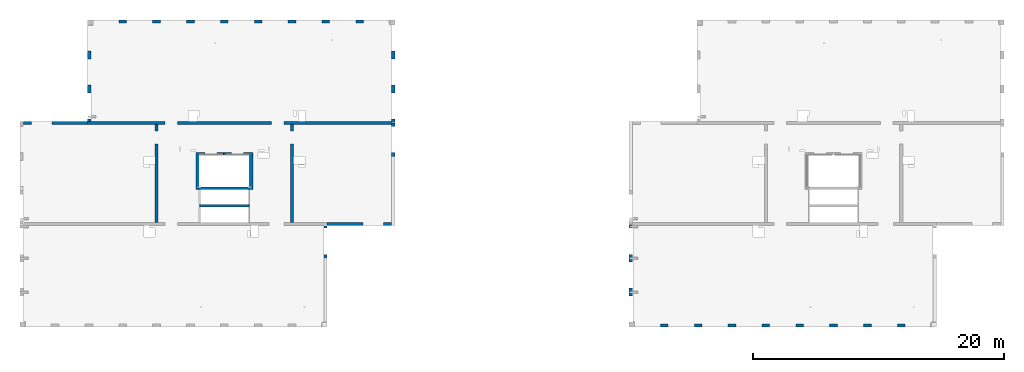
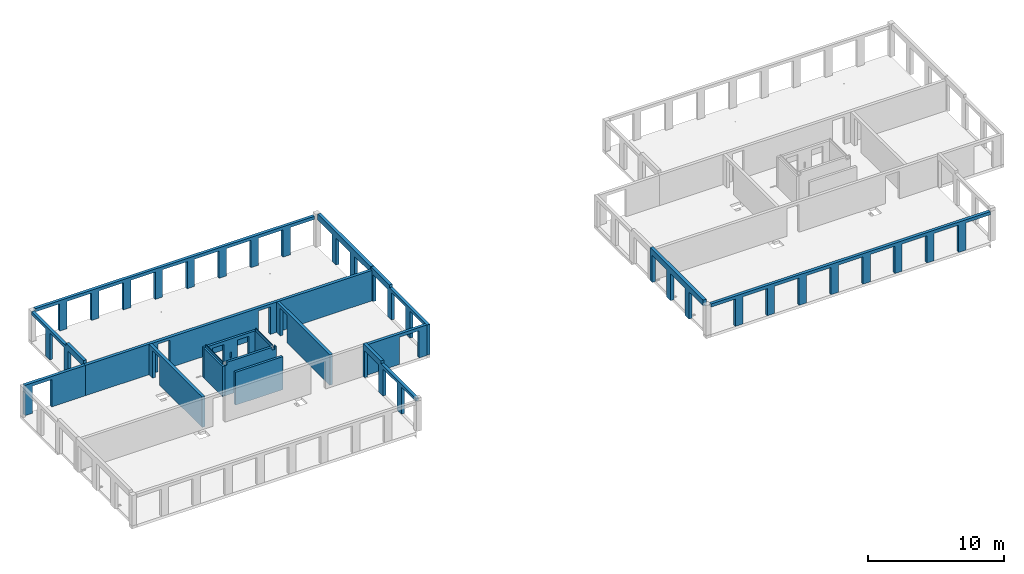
# One storey, part 3 of 8: 19 walls, 47 openings.
"""IFC2X3 building model written with IfcOpenShell, lengths in millimetres."""

from ifc_helpers import new_model, entity, si_unit, converted_unit, derived_unit, direction, frame, frame_2d, origin, origin_2d_with_axis, place, context, subcontext, project, spatial, rectangle, extrude, material, layer, layer_set, layer_usage, type_object, element, save


model = new_model("IFC2X3")

# Units and contexts
model_context = context("Model", 3, precision=0.01, world=origin(), true_north=direction((6.12303176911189e-17, 1.0)))
body_context = subcontext(model_context, "Body", "Model", "MODEL_VIEW")
ifc_project = project(units=[si_unit("LENGTHUNIT", "METRE", prefix="MILLI"), si_unit("AREAUNIT", "SQUARE_METRE"), si_unit("VOLUMEUNIT", "CUBIC_METRE"), converted_unit("PLANEANGLEUNIT", "DEGREE", entity("IfcRatioMeasure", 0.0174532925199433), si_unit("PLANEANGLEUNIT", "RADIAN"), dimensions=[0, 0, 0, 0, 0, 0, 0]), si_unit("MASSUNIT", "GRAM", prefix="KILO"), derived_unit("MASSDENSITYUNIT", [(si_unit("MASSUNIT", "GRAM", prefix="KILO"), 1), (si_unit("LENGTHUNIT", "METRE"), -3)]), si_unit("TIMEUNIT", "SECOND"), si_unit("FREQUENCYUNIT", "HERTZ"), si_unit("THERMODYNAMICTEMPERATUREUNIT", "DEGREE_CELSIUS"), derived_unit("THERMALTRANSMITTANCEUNIT", [(si_unit("MASSUNIT", "GRAM", prefix="KILO"), 1), (si_unit("THERMODYNAMICTEMPERATUREUNIT", "KELVIN"), -1), (si_unit("TIMEUNIT", "SECOND"), -3)]), derived_unit("VOLUMETRICFLOWRATEUNIT", [(si_unit("LENGTHUNIT", "METRE"), 3), (si_unit("TIMEUNIT", "SECOND"), -1)]), si_unit("ELECTRICCURRENTUNIT", "AMPERE"), si_unit("ELECTRICVOLTAGEUNIT", "VOLT"), si_unit("POWERUNIT", "WATT"), si_unit("FORCEUNIT", "NEWTON", prefix="KILO"), si_unit("ILLUMINANCEUNIT", "LUX"), si_unit("LUMINOUSFLUXUNIT", "LUMEN"), si_unit("LUMINOUSINTENSITYUNIT", "CANDELA"), derived_unit("USERDEFINED", [(si_unit("MASSUNIT", "GRAM", prefix="KILO"), -1), (si_unit("LENGTHUNIT", "METRE"), -2), (si_unit("TIMEUNIT", "SECOND"), 3), (si_unit("LUMINOUSFLUXUNIT", "LUMEN"), 1)]), derived_unit("LINEARVELOCITYUNIT", [(si_unit("LENGTHUNIT", "METRE"), 1), (si_unit("TIMEUNIT", "SECOND"), -1)]), si_unit("PRESSUREUNIT", "PASCAL"), derived_unit("USERDEFINED", [(si_unit("LENGTHUNIT", "METRE"), -2), (si_unit("MASSUNIT", "GRAM", prefix="KILO"), 1), (si_unit("TIMEUNIT", "SECOND"), -2)])], contexts=[model_context])

# Site, building, storey
site_placement = place(None, origin())
site = spatial("IfcSite", under=ifc_project, at=site_placement, Name="Default", CompositionType="ELEMENT")
building_placement = place(site_placement, origin())
building = spatial("IfcBuilding", under=site, at=building_placement, Name="niet gebruiken", CompositionType="ELEMENT")
storey_placement = place(building_placement, frame((0.0, 0.0, 36360.0)))
storey = spatial("IfcBuildingStorey", under=building, at=storey_placement, Name="12 twaalfde verdieping", CompositionType="ELEMENT", Elevation=36360.0)

# Wall, opening
ifc_material_1 = material(Name="NLRS_f2_beton ihwg")
ifc_layer_1 = layer(ifc_material_1, 250.0)
ifc_layer_set_1 = layer_set([ifc_layer_1], Name="Basic Wall:NLRS_22.21_WA_beton ihwg d=250_gen")
ifc_layer_usage_1 = layer_usage(ifc_layer_set_1, "AXIS2", "NEGATIVE", 125.0)
wall_type_1 = type_object("IfcWallType", Name="Basic Wall:NLRS_22.21_WA_beton ihwg d=250_gen", PredefinedType="STANDARD", material=ifc_layer_set_1)
wall_1_placement = place(storey_placement, frame((27170.0, 45031.0, -90.0)))
wall_1 = element("IfcWallStandardCase", 1, at=wall_1_placement, inside=storey, type_object=wall_type_1, material=ifc_layer_usage_1, Name="Basic Wall:NLRS_22.21_WA_beton ihwg d=250_gen", ObjectType="Basic Wall:NLRS_22.21_WA_beton ihwg d=250_gen", context=body_context, shape_type="SweptSolid", body=[
    extrude(rectangle(XDim=5130.0, YDim=249.999999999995, at=frame_2d((2565.0, 0.0), x_axis=(-1.0, 0.0))), origin(), (0.0, 0.0, 1.0), 2719.99999999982),
])
opening_1_placement = place(wall_1_placement, origin())
element("IfcOpeningElement", 2, at=opening_1_placement, cuts=wall_1, Name="Basic Wall:NLRS_22.21_WA_beton ihwg d=250_gen", ObjectType="Opening", context=body_context, shape_type="SweptSolid", body=[
    extrude(rectangle(XDim=2440.0, YDim=1640.0, at=origin_2d_with_axis()), frame((1460.0, -1649.0, 1220.0), z_axis=(0.0, 1.0, 0.0), x_axis=(0.0, 0.0, 1.0)), (0.0, 0.0, 1.0), 3048.0),
])

ifc_layer_usage_2 = layer_usage(ifc_layer_set_1, "AXIS2", "NEGATIVE", 125.0)
wall_2_placement = place(storey_placement, frame((37800.0, 44906.0, -90.0), z_axis=(0.0, 0.0, 1.0), x_axis=(0.0, -1.0, 0.0)))
wall_2 = element("IfcWallStandardCase", 3, at=wall_2_placement, inside=storey, type_object=wall_type_1, material=ifc_layer_usage_2, Name="Basic Wall:NLRS_22.21_WA_beton ihwg d=250_gen", ObjectType="Basic Wall:NLRS_22.21_WA_beton ihwg d=250_gen", context=body_context, shape_type="SweptSolid", body=[
    extrude(rectangle(XDim=7799.99999999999, YDim=250.000000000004, at=frame_2d((3900.0, 0.0), x_axis=(-1.0, 0.0))), origin(), (0.0, 0.0, 1.0), 2719.99999999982),
])
opening_2_placement = place(wall_2_placement, origin())
element("IfcOpeningElement", 4, at=opening_2_placement, cuts=wall_2, Name="Basic Wall:NLRS_22.21_WA_beton ihwg d=250_gen", ObjectType="Opening", context=body_context, shape_type="SweptSolid", body=[
    extrude(rectangle(XDim=2470.0, YDim=1006.0, at=frame_2d((-4.43378667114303e-12, 0.0), x_axis=(1.0, 0.0))), frame((1027.0, -1649.0, 1235.0), z_axis=(0.0, 1.0, 0.0), x_axis=(0.0, 0.0, 1.0)), (0.0, 0.0, 1.0), 3048.0),
])

ifc_layer_usage_3 = layer_usage(ifc_layer_set_1, "AXIS2", "NEGATIVE", 125.0)
wall_3_placement = place(storey_placement, frame((48600.0, 44906.0, -90.0), z_axis=(0.0, 0.0, 1.0), x_axis=(0.0, -1.0, 0.0)))
wall_3 = element("IfcWallStandardCase", 5, at=wall_3_placement, inside=storey, type_object=wall_type_1, material=ifc_layer_usage_3, Name="Basic Wall:NLRS_22.21_WA_beton ihwg d=250_gen", ObjectType="Basic Wall:NLRS_22.21_WA_beton ihwg d=250_gen", context=body_context, shape_type="SweptSolid", body=[
    extrude(rectangle(XDim=7799.99999999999, YDim=249.999999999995, at=frame_2d((3900.0, 0.0), x_axis=(-1.0, 0.0))), origin(), (0.0, 0.0, 1.0), 2719.99999999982),
])
opening_3_placement = place(wall_3_placement, origin())
element("IfcOpeningElement", 6, at=opening_3_placement, cuts=wall_3, Name="Basic Wall:NLRS_22.21_WA_beton ihwg d=250_gen", ObjectType="Opening", context=body_context, shape_type="SweptSolid", body=[
    extrude(rectangle(XDim=2470.0, YDim=1006.0, at=frame_2d((-4.43378667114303e-12, 0.0), x_axis=(1.0, 0.0))), frame((1027.0, -1649.0, 1235.0), z_axis=(0.0, 1.0, 0.0), x_axis=(0.0, 0.0, 1.0)), (0.0, 0.0, 1.0), 3048.0),
])

# Wall, openings
ifc_layer_usage_4 = layer_usage(ifc_layer_set_1, "AXIS2", "NEGATIVE", 125.0)
wall_4_placement = place(storey_placement, frame((32300.0, 45031.0, -90.0)))
wall_4 = element("IfcWallStandardCase", 7, at=wall_4_placement, inside=storey, type_object=wall_type_1, material=ifc_layer_usage_4, Name="Basic Wall:NLRS_22.21_WA_beton ihwg d=250_gen", ObjectType="Basic Wall:NLRS_22.21_WA_beton ihwg d=250_gen", context=body_context, shape_type="SweptSolid", body=[
    extrude(rectangle(XDim=24250.0, YDim=249.999999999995, at=frame_2d((12125.0, 0.0), x_axis=(-1.0, 0.0))), origin(), (0.0, 0.0, 1.0), 2719.99999999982),
])
opening_4_placement = place(wall_4_placement, origin())
element("IfcOpeningElement", 8, at=opening_4_placement, cuts=wall_4, Name="Basic Wall:NLRS_22.21_WA_beton ihwg d=250_gen", ObjectType="Opening", context=body_context, shape_type="SweptSolid", body=[
    extrude(rectangle(XDim=2470.0, YDim=1006.0, at=frame_2d((-4.43378667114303e-12, 0.0), x_axis=(1.0, 0.0))), frame((15148.0, -1649.0, 1235.0), z_axis=(0.0, 1.0, 0.0), x_axis=(0.0, 0.0, 1.0)), (0.0, 0.0, 1.0), 3048.0),
])
opening_5_placement = place(wall_4_placement, origin())
element("IfcOpeningElement", 9, at=opening_5_placement, cuts=wall_4, Name="Basic Wall:NLRS_22.21_WA_beton ihwg d=250_gen", ObjectType="Opening", context=body_context, shape_type="SweptSolid", body=[
    extrude(rectangle(XDim=2470.0, YDim=1006.0, at=frame_2d((0.0, 2.1600499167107e-12), x_axis=(1.0, 0.0))), frame((6652.0, -1649.0, 1235.0), z_axis=(0.0, 1.0, 0.0), x_axis=(0.0, 0.0, 1.0)), (0.0, 0.0, 1.0), 3048.0),
])

# Wall, opening
ifc_layer_usage_5 = layer_usage(ifc_layer_set_1, "AXIS2", "NEGATIVE", 125.0)
wall_5_placement = place(storey_placement, frame((51400.0, 36981.0, -90.0)))
wall_5 = element("IfcWallStandardCase", 10, at=wall_5_placement, inside=storey, type_object=wall_type_1, material=ifc_layer_usage_5, Name="Basic Wall:NLRS_22.21_WA_beton ihwg d=250_gen", ObjectType="Basic Wall:NLRS_22.21_WA_beton ihwg d=250_gen", context=body_context, shape_type="SweptSolid", body=[
    extrude(rectangle(XDim=5150.0, YDim=250.000000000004, at=frame_2d((2575.0, 0.0), x_axis=(-1.0, 0.0))), origin(), (0.0, 0.0, 1.0), 2719.99999999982),
])
opening_6_placement = place(wall_5_placement, origin())
element("IfcOpeningElement", 11, at=opening_6_placement, cuts=wall_5, Name="Basic Wall:NLRS_22.21_WA_beton ihwg d=250_gen", ObjectType="Opening", context=body_context, shape_type="SweptSolid", body=[
    extrude(rectangle(XDim=2440.0, YDim=1640.0, at=frame_2d((-4.37694325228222e-12, 0.0), x_axis=(0.0, 1.0))), frame((3670.0, -1399.0, 1220.0), z_axis=(0.0, 1.0, 0.0), x_axis=(-1.0, 0.0, 0.0)), (0.0, 0.0, 1.0), 3048.0),
])

# Wall, openings
ifc_material_2 = material(Name="NLRS_f2_beton prefab")
ifc_layer_2 = layer(ifc_material_2, 250.0)
ifc_layer_set_2 = layer_set([ifc_layer_2], Name="Basic Wall:NLRS_21.21_WA_beton prefab d=250_gen")
ifc_layer_usage_6 = layer_usage(ifc_layer_set_2, "AXIS2", "NEGATIVE", 125.0)
wall_type_2 = type_object("IfcWallType", Name="Basic Wall:NLRS_21.21_WA_beton prefab d=250_gen", PredefinedType="STANDARD", material=ifc_layer_set_2)
wall_6_placement = place(storey_placement, frame((32425.0, 52846.0, -70.0), z_axis=(0.0, 0.0, 1.0), x_axis=(0.0, -1.0, 0.0)))
wall_6 = element("IfcWallStandardCase", 12, at=wall_6_placement, inside=storey, type_object=wall_type_2, material=ifc_layer_usage_6, Name="Basic Wall:NLRS_21.21_WA_beton prefab d=250_gen", ObjectType="Basic Wall:NLRS_21.21_WA_beton prefab d=250_gen", context=body_context, shape_type="SweptSolid", body=[
    extrude(rectangle(XDim=7670.00000000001, YDim=250.000000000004, at=frame_2d((3835.0, 0.0), x_axis=(-1.0, 0.0))), origin(), (0.0, 0.0, 1.0), 2949.99999999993),
])
opening_7_placement = place(wall_6_placement, origin())
element("IfcOpeningElement", 13, at=opening_7_placement, cuts=wall_6, Name="Basic Wall:NLRS_21.21_WA_beton prefab d=250_gen", ObjectType="Opening", context=body_context, shape_type="SweptSolid", body=[
    extrude(rectangle(XDim=2420.0, YDim=2080.0, at=frame_2d((0.0, -2.1600499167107e-12), x_axis=(0.0, 1.0))), frame((1040.0, -1399.0, 1210.0), z_axis=(0.0, 1.0, 0.0), x_axis=(-1.0, 0.0, 0.0)), (0.0, 0.0, 1.0), 3048.0),
])
opening_8_placement = place(wall_6_placement, origin())
element("IfcOpeningElement", 14, at=opening_8_placement, cuts=wall_6, Name="Basic Wall:NLRS_21.21_WA_beton prefab d=250_gen", ObjectType="Opening", context=body_context, shape_type="SweptSolid", body=[
    extrude(rectangle(XDim=2420.0, YDim=2080.0, at=frame_2d((0.0, 2.1600499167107e-12), x_axis=(0.0, 1.0))), frame((3740.0, -1399.0, 1210.0), z_axis=(0.0, 1.0, 0.0), x_axis=(-1.0, 0.0, 0.0)), (0.0, 0.0, 1.0), 3048.0),
])
opening_9_placement = place(wall_6_placement, origin())
element("IfcOpeningElement", 15, at=opening_9_placement, cuts=wall_6, Name="Basic Wall:NLRS_21.21_WA_beton prefab d=250_gen", ObjectType="Opening", context=body_context, shape_type="SweptSolid", body=[
    extrude(rectangle(XDim=2420.0, YDim=2080.0, at=frame_2d((0.0, 2.1600499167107e-12), x_axis=(0.0, 1.0))), frame((6440.0, -1399.0, 1210.0), z_axis=(0.0, 1.0, 0.0), x_axis=(-1.0, 0.0, 0.0)), (0.0, 0.0, 1.0), 3048.0),
])
opening_10_placement = place(wall_6_placement, origin())
element("IfcOpeningElement", 16, at=opening_10_placement, cuts=wall_6, Name="Basic Wall:NLRS_21.21_WA_beton prefab d=250_gen", ObjectType="Opening", context=body_context, shape_type="SweptSolid", body=[
    extrude(rectangle(XDim=250.000000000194, YDim=5089.99999999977, at=frame_2d((4.32009983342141e-12, -4.32720526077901e-12), x_axis=(0.0, 1.0))), frame((2545.0, 125.0, 2825.0), z_axis=(0.0, -1.0, 0.0), x_axis=(-1.0, 0.0, 0.0)), (0.0, 0.0, 1.0), 250.0),
])

ifc_layer_usage_7 = layer_usage(ifc_layer_set_2, "AXIS2", "NEGATIVE", 125.0)
wall_7_placement = place(storey_placement, frame((56675.0, 45046.0, -70.0), z_axis=(0.0, 0.0, 1.0), x_axis=(0.0, -1.0, 0.0)))
wall_7 = element("IfcWallStandardCase", 17, at=wall_7_placement, inside=storey, type_object=wall_type_2, material=ifc_layer_usage_7, Name="Basic Wall:NLRS_21.21_WA_beton prefab d=250_gen", ObjectType="Basic Wall:NLRS_21.21_WA_beton prefab d=250_gen", context=body_context, shape_type="SweptSolid", body=[
    extrude(rectangle(XDim=8189.99999999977, YDim=249.999999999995, at=frame_2d((4094.99999999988, 0.0), x_axis=(-1.0, 0.0))), origin(), (0.0, 0.0, 1.0), 2949.99999999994),
])
opening_11_placement = place(wall_7_placement, origin())
element("IfcOpeningElement", 18, at=opening_11_placement, cuts=wall_7, Name="Basic Wall:NLRS_21.21_WA_beton prefab d=250_gen", ObjectType="Opening", context=body_context, shape_type="SweptSolid", body=[
    extrude(rectangle(XDim=2420.0, YDim=2080.0, at=frame_2d((0.0, -2.1600499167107e-12), x_axis=(0.0, 1.0))), frame((1340.0, -1399.0, 1210.0), z_axis=(0.0, 1.0, 0.0), x_axis=(-1.0, 0.0, 0.0)), (0.0, 0.0, 1.0), 3048.0),
])
opening_12_placement = place(wall_7_placement, origin())
element("IfcOpeningElement", 19, at=opening_12_placement, cuts=wall_7, Name="Basic Wall:NLRS_21.21_WA_beton prefab d=250_gen", ObjectType="Opening", context=body_context, shape_type="SweptSolid", body=[
    extrude(rectangle(XDim=2420.0, YDim=2080.0, at=frame_2d((0.0, -2.1600499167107e-12), x_axis=(0.0, 1.0))), frame((4040.0, -1399.0, 1210.0), z_axis=(0.0, 1.0, 0.0), x_axis=(-1.0, 0.0, 0.0)), (0.0, 0.0, 1.0), 3048.0),
])
opening_13_placement = place(wall_7_placement, origin())
element("IfcOpeningElement", 20, at=opening_13_placement, cuts=wall_7, Name="Basic Wall:NLRS_21.21_WA_beton prefab d=250_gen", ObjectType="Opening", context=body_context, shape_type="SweptSolid", body=[
    extrude(rectangle(XDim=2420.0, YDim=2080.0, at=frame_2d((0.0, -2.1600499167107e-12), x_axis=(0.0, 1.0))), frame((6740.0, -1399.0, 1210.0), z_axis=(0.0, 1.0, 0.0), x_axis=(-1.0, 0.0, 0.0)), (0.0, 0.0, 1.0), 3048.0),
])
opening_14_placement = place(wall_7_placement, origin())
element("IfcOpeningElement", 21, at=opening_14_placement, cuts=wall_7, Name="Basic Wall:NLRS_21.21_WA_beton prefab d=250_gen", ObjectType="Opening", context=body_context, shape_type="SweptSolid", body=[
    extrude(rectangle(XDim=249.999999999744, YDim=5500.0000000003, at=frame_2d((-4.33431068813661e-12, -4.32009983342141e-12), x_axis=(1.0, 0.0))), frame((5440.0, 125.0, 2825.0), z_axis=(0.0, -1.0, 0.0), x_axis=(0.0, 0.0, 1.0)), (0.0, 0.0, 1.0), 250.0),
])

ifc_layer_usage_8 = layer_usage(ifc_layer_set_2, "AXIS2", "NEGATIVE", 125.0)
wall_8_placement = place(storey_placement, frame((51275.0, 29166.0, -70.0), z_axis=(0.0, 0.0, 1.0), x_axis=(0.0, 1.0, 0.0)))
wall_8 = element("IfcWallStandardCase", 22, at=wall_8_placement, inside=storey, type_object=wall_type_2, material=ifc_layer_usage_8, Name="Basic Wall:NLRS_21.21_WA_beton prefab d=250_gen", ObjectType="Basic Wall:NLRS_21.21_WA_beton prefab d=250_gen", context=body_context, shape_type="SweptSolid", body=[
    extrude(rectangle(XDim=7669.99999999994, YDim=249.999999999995, at=frame_2d((3834.99999999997, 0.0), x_axis=(-1.0, 0.0))), origin(), (0.0, 0.0, 1.0), 2949.99999999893),
])
opening_15_placement = place(wall_8_placement, origin())
element("IfcOpeningElement", 23, at=opening_15_placement, cuts=wall_8, Name="Basic Wall:NLRS_21.21_WA_beton prefab d=250_gen", ObjectType="Opening", context=body_context, shape_type="SweptSolid", body=[
    extrude(rectangle(XDim=2420.0, YDim=2080.0, at=frame_2d((-2.1600499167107e-12, -2.1600499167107e-12), x_axis=(0.0, 1.0))), frame((1040.0, -1399.0, 1210.0), z_axis=(0.0, 1.0, 0.0), x_axis=(-1.0, 0.0, 0.0)), (0.0, 0.0, 1.0), 3048.0),
])
opening_16_placement = place(wall_8_placement, origin())
element("IfcOpeningElement", 24, at=opening_16_placement, cuts=wall_8, Name="Basic Wall:NLRS_21.21_WA_beton prefab d=250_gen", ObjectType="Opening", context=body_context, shape_type="SweptSolid", body=[
    extrude(rectangle(XDim=2420.0, YDim=2080.0, at=frame_2d((2.1600499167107e-12, -2.1600499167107e-12), x_axis=(0.0, 1.0))), frame((6440.0, -1399.0, 1210.0), z_axis=(0.0, 1.0, 0.0), x_axis=(-1.0, 0.0, 0.0)), (0.0, 0.0, 1.0), 3048.0),
])
opening_17_placement = place(wall_8_placement, origin())
element("IfcOpeningElement", 25, at=opening_17_placement, cuts=wall_8, Name="Basic Wall:NLRS_21.21_WA_beton prefab d=250_gen", ObjectType="Opening", context=body_context, shape_type="SweptSolid", body=[
    extrude(rectangle(XDim=2420.0, YDim=2080.0, at=frame_2d((2.1600499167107e-12, -2.1600499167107e-12), x_axis=(0.0, 1.0))), frame((3740.0, -1399.0, 1210.0), z_axis=(0.0, 1.0, 0.0), x_axis=(-1.0, 0.0, 0.0)), (0.0, 0.0, 1.0), 3048.0),
])
opening_18_placement = place(wall_8_placement, origin())
element("IfcOpeningElement", 26, at=opening_18_placement, cuts=wall_8, Name="Basic Wall:NLRS_21.21_WA_beton prefab d=250_gen", ObjectType="Opening", context=body_context, shape_type="SweptSolid", body=[
    extrude(rectangle(XDim=249.999999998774, YDim=5090.00000000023, at=frame_2d((0.0, -4.32720526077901e-12), x_axis=(0.0, 1.0))), frame((2545.0, 125.0, 2825.0), z_axis=(0.0, -1.0, 0.0), x_axis=(-1.0, 0.0, 0.0)), (0.0, 0.0, 1.0), 250.0),
])

# Wall
ifc_layer_3 = layer(ifc_material_2, 200.0)
ifc_layer_set_3 = layer_set([ifc_layer_3], Name="Basic Wall:NLRS_21.21_WA_beton prefab d=200_gen")
ifc_layer_usage_9 = layer_usage(ifc_layer_set_3, "AXIS2", "NEGATIVE", 100.0)
wall_type_3 = type_object("IfcWallType", Name="Basic Wall:NLRS_21.21_WA_beton prefab d=200_gen", PredefinedType="STANDARD", material=ifc_layer_set_3)
wall_9_placement = place(storey_placement, frame((41200.0, 38426.0, -70.0)))
element("IfcWallStandardCase", 27, at=wall_9_placement, inside=storey, type_object=wall_type_3, material=ifc_layer_usage_9, Name="Basic Wall:NLRS_21.21_WA_beton prefab d=200_gen", ObjectType="Basic Wall:NLRS_21.21_WA_beton prefab d=200_gen", context=body_context, shape_type="SweptSolid", body=[
    extrude(rectangle(XDim=3999.99999999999, YDim=199.999999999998, at=frame_2d((2000.0, 0.0), x_axis=(-1.0, 0.0))), origin(), (0.0, 0.0, 1.0), 2950.00000000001),
])

# Wall, openings
ifc_layer_4 = layer(ifc_material_2, 200.0)
ifc_layer_set_4 = layer_set([ifc_layer_4], Name="Basic Wall:NLRS_22.21_WA_beton prefab d=200_gen")
ifc_layer_usage_10 = layer_usage(ifc_layer_set_4, "AXIS2", "NEGATIVE", 100.0)
wall_type_4 = type_object("IfcWallType", Name="Basic Wall:NLRS_22.21_WA_beton prefab d=200_gen", PredefinedType="STANDARD", material=ifc_layer_set_4)
wall_10_placement = place(storey_placement, frame((40925.0, 42596.0, -70.0)))
wall_10 = element("IfcWallStandardCase", 28, at=wall_10_placement, inside=storey, type_object=wall_type_4, material=ifc_layer_usage_10, Name="Basic Wall:NLRS_22.21_WA_beton prefab d=200_gen", ObjectType="Basic Wall:NLRS_22.21_WA_beton prefab d=200_gen", context=body_context, shape_type="SweptSolid", body=[
    extrude(rectangle(XDim=4549.99999999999, YDim=200.000000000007, at=frame_2d((2274.99999999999, 7.8159700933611e-13), x_axis=(-1.0, 0.0))), origin(), (0.0, 0.0, 1.0), 2700.00000000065),
])
opening_19_placement = place(wall_10_placement, origin())
element("IfcOpeningElement", 29, at=opening_19_placement, cuts=wall_10, Name="Basic Wall:NLRS_22.21_WA_beton prefab d=200_gen", ObjectType="Opening", context=body_context, shape_type="SweptSolid", body=[
    extrude(rectangle(XDim=2430.0, YDim=980.000000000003, at=origin_2d_with_axis()), frame((1219.99984910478, -1624.0, 1195.0), z_axis=(0.0, 1.0, 0.0), x_axis=(0.0, 0.0, 1.0)), (0.0, 0.0, 1.0), 3048.0),
])
opening_20_placement = place(wall_10_placement, origin())
element("IfcOpeningElement", 30, at=opening_20_placement, cuts=wall_10, Name="Basic Wall:NLRS_22.21_WA_beton prefab d=200_gen", ObjectType="Opening", context=body_context, shape_type="SweptSolid", body=[
    extrude(rectangle(XDim=2430.0, YDim=980.000000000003, at=origin_2d_with_axis()), frame((3329.99984910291, -1624.0, 1195.0), z_axis=(0.0, 1.0, 0.0), x_axis=(0.0, 0.0, 1.0)), (0.0, 0.0, 1.0), 3048.0),
])
opening_21_placement = place(wall_10_placement, origin())
element("IfcOpeningElement", 31, at=opening_21_placement, cuts=wall_10, Name="Basic Wall:NLRS_22.21_WA_beton prefab d=200_gen", ObjectType="Opening", context=body_context, shape_type="SweptSolid", body=[
    extrude(rectangle(XDim=504.999999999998, YDim=135.000000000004, at=frame_2d((-2.1600499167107e-12, 0.0), x_axis=(1.0, 0.0))), frame((2275.0, -1624.0, 1272.50000000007), z_axis=(0.0, 1.0, 0.0), x_axis=(0.0, 0.0, 1.0)), (0.0, 0.0, 1.0), 3048.0),
])

# Wall
ifc_layer_usage_11 = layer_usage(ifc_layer_set_4, "AXIS2", "NEGATIVE", 100.0)
wall_11_placement = place(storey_placement, frame((41025.0, 42496.0, -70.0), z_axis=(0.0, 0.0, 1.0), x_axis=(0.0, -1.0, 0.0)))
element("IfcWallStandardCase", 32, at=wall_11_placement, inside=storey, type_object=wall_type_4, material=ifc_layer_usage_11, Name="Basic Wall:NLRS_22.21_WA_beton prefab d=200_gen", ObjectType="Basic Wall:NLRS_22.21_WA_beton prefab d=200_gen", context=body_context, shape_type="SweptSolid", body=[
    extrude(rectangle(XDim=2749.99999999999, YDim=200.000000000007, at=frame_2d((1375.0, 0.0), x_axis=(-1.0, 0.0))), origin(), (0.0, 0.0, 1.0), 2699.99999999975),
])

# Wall, openings
ifc_layer_usage_12 = layer_usage(ifc_layer_set_4, "AXIS2", "NEGATIVE", 100.0)
wall_12_placement = place(storey_placement, frame((45475.0, 39846.0, -70.0), z_axis=(0.0, 0.0, 1.0), x_axis=(-1.0, 0.0, 0.0)))
wall_12 = element("IfcWallStandardCase", 33, at=wall_12_placement, inside=storey, type_object=wall_type_4, material=ifc_layer_usage_12, Name="Basic Wall:NLRS_22.21_WA_beton prefab d=200_gen", ObjectType="Basic Wall:NLRS_22.21_WA_beton prefab d=200_gen", context=body_context, shape_type="SweptSolid", body=[
    extrude(rectangle(XDim=4349.99999999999, YDim=200.000000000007, at=frame_2d((2174.99999999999, 0.0), x_axis=(-1.0, 0.0))), origin(), (0.0, 0.0, 1.0), 2949.99999999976),
])
opening_22_placement = place(wall_12_placement, origin())
element("IfcOpeningElement", 34, at=opening_22_placement, cuts=wall_12, Name="Basic Wall:NLRS_22.21_WA_beton prefab d=200_gen", ObjectType="Opening", context=body_context, shape_type="SweptSolid", body=[
    extrude(rectangle(XDim=249.999999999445, YDim=274.9999671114, at=frame_2d((-2.16715534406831e-12, -4.33431068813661e-12), x_axis=(1.0, 0.0))), frame((4312.50001644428, 100.0, 2825.0), z_axis=(0.0, -1.0, 0.0), x_axis=(0.0, 0.0, 1.0)), (0.0, 0.0, 1.0), 200.0),
])
opening_23_placement = place(wall_12_placement, origin())
element("IfcOpeningElement", 35, at=opening_23_placement, cuts=wall_12, Name="Basic Wall:NLRS_22.21_WA_beton prefab d=200_gen", ObjectType="Opening", context=body_context, shape_type="SweptSolid", body=[
    extrude(rectangle(XDim=249.999999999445, YDim=274.999967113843, at=frame_2d((-4.32009983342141e-12, 2.16715534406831e-12), x_axis=(0.0, 1.0))), frame((237.499983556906, 100.0, 2825.0), z_axis=(0.0, -1.0, 0.0), x_axis=(-1.0, 0.0, 0.0)), (0.0, 0.0, 1.0), 200.0),
])

# Wall
ifc_layer_usage_13 = layer_usage(ifc_layer_set_4, "AXIS2", "NEGATIVE", 100.0)
wall_13_placement = place(storey_placement, frame((45375.0, 39946.0, -70.0), z_axis=(0.0, 0.0, 1.0), x_axis=(0.0, 1.0, 0.0)))
element("IfcWallStandardCase", 36, at=wall_13_placement, inside=storey, type_object=wall_type_4, material=ifc_layer_usage_13, Name="Basic Wall:NLRS_22.21_WA_beton prefab d=200_gen", ObjectType="Basic Wall:NLRS_22.21_WA_beton prefab d=200_gen", context=body_context, shape_type="SweptSolid", body=[
    extrude(rectangle(XDim=2549.99999999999, YDim=200.000000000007, at=frame_2d((1275.0, 0.0), x_axis=(-1.0, 0.0))), origin(), (0.0, 0.0, 1.0), 2699.99999999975),
])

# Wall, openings
ifc_layer_5 = layer(ifc_material_1, 250.0)
ifc_layer_set_5 = layer_set([ifc_layer_5], Name="Basic Wall:NLRS_21.21_WA_beton ihwg d=250_gen")
ifc_layer_usage_14 = layer_usage(ifc_layer_set_5, "AXIS2", "NEGATIVE", 125.0)
wall_type_5 = type_object("IfcWallType", Name="Basic Wall:NLRS_21.21_WA_beton ihwg d=250_gen", PredefinedType="STANDARD", material=ifc_layer_set_5)
wall_14_placement = place(storey_placement, frame((75930.0, 28881.0, -90.0)))
wall_14 = element("IfcWallStandardCase", 37, at=wall_14_placement, inside=storey, type_object=wall_type_5, material=ifc_layer_usage_14, Name="Basic Wall:NLRS_21.21_WA_beton ihwg d=250_gen", ObjectType="Basic Wall:NLRS_21.21_WA_beton ihwg d=250_gen", context=body_context, shape_type="SweptSolid", body=[
    extrude(rectangle(XDim=23640.0000000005, YDim=250.000000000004, at=frame_2d((11820.0000000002, -8.66862137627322e-13), x_axis=(-1.0, 0.0))), origin(), (0.0, 0.0, 1.0), 2720.00000000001),
])
opening_24_placement = place(wall_14_placement, origin())
element("IfcOpeningElement", 38, at=opening_24_placement, cuts=wall_14, Name="Basic Wall:NLRS_21.21_WA_beton ihwg d=250_gen", ObjectType="Opening", context=body_context, shape_type="SweptSolid", body=[
    extrude(rectangle(XDim=2440.0, YDim=2080.0, at=frame_2d((8.64019966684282e-12, -2.1600499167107e-12), x_axis=(0.0, 1.0))), frame((22620.0, -1399.0, 1220.0), z_axis=(0.0, 1.0, 0.0), x_axis=(-1.0, 0.0, 0.0)), (0.0, 0.0, 1.0), 3048.0),
])
opening_25_placement = place(wall_14_placement, origin())
element("IfcOpeningElement", 39, at=opening_25_placement, cuts=wall_14, Name="Basic Wall:NLRS_21.21_WA_beton ihwg d=250_gen", ObjectType="Opening", context=body_context, shape_type="SweptSolid", body=[
    extrude(rectangle(XDim=2440.0, YDim=2080.0, at=frame_2d((8.64019966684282e-12, 0.0), x_axis=(0.0, 1.0))), frame((19920.0, -1399.0, 1220.0), z_axis=(0.0, 1.0, 0.0), x_axis=(-1.0, 0.0, 0.0)), (0.0, 0.0, 1.0), 3048.0),
])
opening_26_placement = place(wall_14_placement, origin())
element("IfcOpeningElement", 40, at=opening_26_placement, cuts=wall_14, Name="Basic Wall:NLRS_21.21_WA_beton ihwg d=250_gen", ObjectType="Opening", context=body_context, shape_type="SweptSolid", body=[
    extrude(rectangle(XDim=2440.0, YDim=2080.0, at=frame_2d((8.64019966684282e-12, 2.1600499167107e-12), x_axis=(0.0, 1.0))), frame((17220.0, -1399.0, 1220.0), z_axis=(0.0, 1.0, 0.0), x_axis=(-1.0, 0.0, 0.0)), (0.0, 0.0, 1.0), 3048.0),
])
opening_27_placement = place(wall_14_placement, origin())
element("IfcOpeningElement", 41, at=opening_27_placement, cuts=wall_14, Name="Basic Wall:NLRS_21.21_WA_beton ihwg d=250_gen", ObjectType="Opening", context=body_context, shape_type="SweptSolid", body=[
    extrude(rectangle(XDim=2440.0, YDim=2080.0, at=frame_2d((-8.64019966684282e-12, 0.0), x_axis=(0.0, 1.0))), frame((14520.0, -1399.0, 1220.0), z_axis=(0.0, 1.0, 0.0), x_axis=(-1.0, 0.0, 0.0)), (0.0, 0.0, 1.0), 3048.0),
])
opening_28_placement = place(wall_14_placement, origin())
element("IfcOpeningElement", 42, at=opening_28_placement, cuts=wall_14, Name="Basic Wall:NLRS_21.21_WA_beton ihwg d=250_gen", ObjectType="Opening", context=body_context, shape_type="SweptSolid", body=[
    extrude(rectangle(XDim=2440.0, YDim=2080.0, at=frame_2d((8.64019966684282e-12, -2.1600499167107e-12), x_axis=(0.0, 1.0))), frame((11820.0, -1399.0, 1220.0), z_axis=(0.0, 1.0, 0.0), x_axis=(-1.0, 0.0, 0.0)), (0.0, 0.0, 1.0), 3048.0),
])
opening_29_placement = place(wall_14_placement, origin())
element("IfcOpeningElement", 43, at=opening_29_placement, cuts=wall_14, Name="Basic Wall:NLRS_21.21_WA_beton ihwg d=250_gen", ObjectType="Opening", context=body_context, shape_type="SweptSolid", body=[
    extrude(rectangle(XDim=2440.0, YDim=2080.0, at=frame_2d((8.64019966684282e-12, 0.0), x_axis=(0.0, 1.0))), frame((9120.0, -1399.0, 1220.0), z_axis=(0.0, 1.0, 0.0), x_axis=(-1.0, 0.0, 0.0)), (0.0, 0.0, 1.0), 3048.0),
])
opening_30_placement = place(wall_14_placement, origin())
element("IfcOpeningElement", 44, at=opening_30_placement, cuts=wall_14, Name="Basic Wall:NLRS_21.21_WA_beton ihwg d=250_gen", ObjectType="Opening", context=body_context, shape_type="SweptSolid", body=[
    extrude(rectangle(XDim=2440.0, YDim=2080.0, at=frame_2d((-8.64019966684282e-12, -2.1600499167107e-12), x_axis=(0.0, 1.0))), frame((6420.0, -1399.0, 1220.0), z_axis=(0.0, 1.0, 0.0), x_axis=(-1.0, 0.0, 0.0)), (0.0, 0.0, 1.0), 3048.0),
])
opening_31_placement = place(wall_14_placement, origin())
element("IfcOpeningElement", 45, at=opening_31_placement, cuts=wall_14, Name="Basic Wall:NLRS_21.21_WA_beton ihwg d=250_gen", ObjectType="Opening", context=body_context, shape_type="SweptSolid", body=[
    extrude(rectangle(XDim=2440.0, YDim=2080.0, at=frame_2d((-8.64019966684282e-12, 0.0), x_axis=(0.0, 1.0))), frame((3720.0, -1399.0, 1220.0), z_axis=(0.0, 1.0, 0.0), x_axis=(-1.0, 0.0, 0.0)), (0.0, 0.0, 1.0), 3048.0),
])
opening_32_placement = place(wall_14_placement, origin())
element("IfcOpeningElement", 46, at=opening_32_placement, cuts=wall_14, Name="Basic Wall:NLRS_21.21_WA_beton ihwg d=250_gen", ObjectType="Opening", context=body_context, shape_type="SweptSolid", body=[
    extrude(rectangle(XDim=2440.0, YDim=2080.0, at=frame_2d((0.0, -2.1600499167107e-12), x_axis=(0.0, 1.0))), frame((1020.0, -1399.0, 1220.0), z_axis=(0.0, 1.0, 0.0), x_axis=(-1.0, 0.0, 0.0)), (0.0, 0.0, 1.0), 3048.0),
])

ifc_layer_usage_15 = layer_usage(ifc_layer_set_5, "AXIS2", "NEGATIVE", 125.0)
wall_15_placement = place(storey_placement, frame((56370.0, 53131.0, -90.0), z_axis=(0.0, 0.0, 1.0), x_axis=(-1.0, 0.0, 0.0)))
wall_15 = element("IfcWallStandardCase", 47, at=wall_15_placement, inside=storey, type_object=wall_type_5, material=ifc_layer_usage_15, Name="Basic Wall:NLRS_21.21_WA_beton ihwg d=250_gen", ObjectType="Basic Wall:NLRS_21.21_WA_beton ihwg d=250_gen", context=body_context, shape_type="SweptSolid", body=[
    extrude(rectangle(XDim=23640.0000000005, YDim=249.999999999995, at=frame_2d((11820.0000000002, 5.82645043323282e-13), x_axis=(-1.0, 0.0))), origin(), (0.0, 0.0, 1.0), 2720.00000000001),
])
opening_33_placement = place(wall_15_placement, origin())
element("IfcOpeningElement", 48, at=opening_33_placement, cuts=wall_15, Name="Basic Wall:NLRS_21.21_WA_beton ihwg d=250_gen", ObjectType="Opening", context=body_context, shape_type="SweptSolid", body=[
    extrude(rectangle(XDim=2440.0, YDim=2080.0, at=frame_2d((-2.1600499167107e-12, -2.1600499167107e-12), x_axis=(0.0, 1.0))), frame((22620.0, -1399.0, 1220.0), z_axis=(0.0, 1.0, 0.0), x_axis=(-1.0, 0.0, 0.0)), (0.0, 0.0, 1.0), 3048.0),
])
opening_34_placement = place(wall_15_placement, origin())
element("IfcOpeningElement", 49, at=opening_34_placement, cuts=wall_15, Name="Basic Wall:NLRS_21.21_WA_beton ihwg d=250_gen", ObjectType="Opening", context=body_context, shape_type="SweptSolid", body=[
    extrude(rectangle(XDim=2440.0, YDim=2080.0, at=frame_2d((2.1600499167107e-12, 0.0), x_axis=(0.0, 1.0))), frame((19920.0, -1399.0, 1220.0), z_axis=(0.0, 1.0, 0.0), x_axis=(-1.0, 0.0, 0.0)), (0.0, 0.0, 1.0), 3048.0),
])
opening_35_placement = place(wall_15_placement, origin())
element("IfcOpeningElement", 50, at=opening_35_placement, cuts=wall_15, Name="Basic Wall:NLRS_21.21_WA_beton ihwg d=250_gen", ObjectType="Opening", context=body_context, shape_type="SweptSolid", body=[
    extrude(rectangle(XDim=2440.0, YDim=2079.99999999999, at=frame_2d((2.1600499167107e-12, 2.1600499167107e-12), x_axis=(0.0, 1.0))), frame((17220.0, -1399.0, 1220.0), z_axis=(0.0, 1.0, 0.0), x_axis=(-1.0, 0.0, 0.0)), (0.0, 0.0, 1.0), 3048.0),
])
opening_36_placement = place(wall_15_placement, origin())
element("IfcOpeningElement", 51, at=opening_36_placement, cuts=wall_15, Name="Basic Wall:NLRS_21.21_WA_beton ihwg d=250_gen", ObjectType="Opening", context=body_context, shape_type="SweptSolid", body=[
    extrude(rectangle(XDim=2440.0, YDim=2080.0, at=frame_2d((0.0, 0.0), x_axis=(0.0, 1.0))), frame((14520.0, -1399.0, 1220.0), z_axis=(0.0, 1.0, 0.0), x_axis=(-1.0, 0.0, 0.0)), (0.0, 0.0, 1.0), 3048.0),
])
opening_37_placement = place(wall_15_placement, origin())
element("IfcOpeningElement", 52, at=opening_37_placement, cuts=wall_15, Name="Basic Wall:NLRS_21.21_WA_beton ihwg d=250_gen", ObjectType="Opening", context=body_context, shape_type="SweptSolid", body=[
    extrude(rectangle(XDim=2440.0, YDim=2080.0, at=frame_2d((0.0, -2.1600499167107e-12), x_axis=(0.0, 1.0))), frame((11820.0, -1399.0, 1220.0), z_axis=(0.0, 1.0, 0.0), x_axis=(-1.0, 0.0, 0.0)), (0.0, 0.0, 1.0), 3048.0),
])
opening_38_placement = place(wall_15_placement, origin())
element("IfcOpeningElement", 53, at=opening_38_placement, cuts=wall_15, Name="Basic Wall:NLRS_21.21_WA_beton ihwg d=250_gen", ObjectType="Opening", context=body_context, shape_type="SweptSolid", body=[
    extrude(rectangle(XDim=2440.0, YDim=2080.0, at=frame_2d((0.0, 0.0), x_axis=(0.0, 1.0))), frame((9120.0, -1399.0, 1220.0), z_axis=(0.0, 1.0, 0.0), x_axis=(-1.0, 0.0, 0.0)), (0.0, 0.0, 1.0), 3048.0),
])
opening_39_placement = place(wall_15_placement, origin())
element("IfcOpeningElement", 54, at=opening_39_placement, cuts=wall_15, Name="Basic Wall:NLRS_21.21_WA_beton ihwg d=250_gen", ObjectType="Opening", context=body_context, shape_type="SweptSolid", body=[
    extrude(rectangle(XDim=2440.0, YDim=2080.0, at=frame_2d((0.0, -2.1600499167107e-12), x_axis=(0.0, 1.0))), frame((6420.0, -1399.0, 1220.0), z_axis=(0.0, 1.0, 0.0), x_axis=(-1.0, 0.0, 0.0)), (0.0, 0.0, 1.0), 3048.0),
])
opening_40_placement = place(wall_15_placement, origin())
element("IfcOpeningElement", 55, at=opening_40_placement, cuts=wall_15, Name="Basic Wall:NLRS_21.21_WA_beton ihwg d=250_gen", ObjectType="Opening", context=body_context, shape_type="SweptSolid", body=[
    extrude(rectangle(XDim=2440.0, YDim=2080.0, at=frame_2d((0.0, 0.0), x_axis=(0.0, 1.0))), frame((3720.0, -1399.0, 1220.0), z_axis=(0.0, 1.0, 0.0), x_axis=(-1.0, 0.0, 0.0)), (0.0, 0.0, 1.0), 3048.0),
])
opening_41_placement = place(wall_15_placement, origin())
element("IfcOpeningElement", 56, at=opening_41_placement, cuts=wall_15, Name="Basic Wall:NLRS_21.21_WA_beton ihwg d=250_gen", ObjectType="Opening", context=body_context, shape_type="SweptSolid", body=[
    extrude(rectangle(XDim=2440.0, YDim=2080.0, at=frame_2d((8.64019966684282e-12, -2.1600499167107e-12), x_axis=(0.0, 1.0))), frame((1020.0, -1399.0, 1220.0), z_axis=(0.0, 1.0, 0.0), x_axis=(-1.0, 0.0, 0.0)), (0.0, 0.0, 1.0), 3048.0),
])

ifc_layer_6 = layer(ifc_material_2, 270.0)
ifc_layer_set_6 = layer_set([ifc_layer_6], Name="Basic Wall:NLRS_21.21_WA_beton prefab d=270_gen")
ifc_layer_usage_16 = layer_usage(ifc_layer_set_6, "AXIS2", "NEGATIVE", 135.0)
wall_type_6 = type_object("IfcWallType", Name="Basic Wall:NLRS_21.21_WA_beton prefab d=270_gen", PredefinedType="STANDARD", material=ifc_layer_set_6)
wall_16_placement = place(storey_placement, frame((75635.0, 36946.0, -70.0), z_axis=(0.0, 0.0, 1.0), x_axis=(0.0, -1.0, 0.0)))
wall_16 = element("IfcWallStandardCase", 57, at=wall_16_placement, inside=storey, type_object=wall_type_6, material=ifc_layer_usage_16, Name="Basic Wall:NLRS_21.21_WA_beton prefab d=270_gen", ObjectType="Basic Wall:NLRS_21.21_WA_beton prefab d=270_gen", context=body_context, shape_type="SweptSolid", body=[
    extrude(rectangle(XDim=7779.99999999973, YDim=270.000000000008, at=frame_2d((3889.99999999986, 0.0), x_axis=(-1.0, 0.0))), origin(), (0.0, 0.0, 1.0), 2949.99999999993),
])
opening_42_placement = place(wall_16_placement, origin())
element("IfcOpeningElement", 58, at=opening_42_placement, cuts=wall_16, Name="Basic Wall:NLRS_21.21_WA_beton prefab d=270_gen", ObjectType="Opening", context=body_context, shape_type="SweptSolid", body=[
    extrude(rectangle(XDim=2420.0, YDim=2080.0, at=frame_2d((-2.1600499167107e-12, -2.1600499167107e-12), x_axis=(0.0, 1.0))), frame((1340.0, -1389.0, 1210.0), z_axis=(0.0, 1.0, 0.0), x_axis=(-1.0, 0.0, 0.0)), (0.0, 0.0, 1.0), 3048.0),
])
opening_43_placement = place(wall_16_placement, origin())
element("IfcOpeningElement", 59, at=opening_43_placement, cuts=wall_16, Name="Basic Wall:NLRS_21.21_WA_beton prefab d=270_gen", ObjectType="Opening", context=body_context, shape_type="SweptSolid", body=[
    extrude(rectangle(XDim=2420.0, YDim=2080.0, at=frame_2d((2.1600499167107e-12, 2.1600499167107e-12), x_axis=(0.0, 1.0))), frame((4040.0, -1389.0, 1210.0), z_axis=(0.0, 1.0, 0.0), x_axis=(-1.0, 0.0, 0.0)), (0.0, 0.0, 1.0), 3048.0),
])
opening_44_placement = place(wall_16_placement, origin())
element("IfcOpeningElement", 60, at=opening_44_placement, cuts=wall_16, Name="Basic Wall:NLRS_21.21_WA_beton prefab d=270_gen", ObjectType="Opening", context=body_context, shape_type="SweptSolid", body=[
    extrude(rectangle(XDim=2420.0, YDim=2080.0, at=frame_2d((2.1600499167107e-12, 2.1600499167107e-12), x_axis=(0.0, 1.0))), frame((6740.0, -1389.0, 1210.0), z_axis=(0.0, 1.0, 0.0), x_axis=(-1.0, 0.0, 0.0)), (0.0, 0.0, 1.0), 3048.0),
])

ifc_layer_usage_17 = layer_usage(ifc_layer_set_6, "AXIS2", "NEGATIVE", 135.0)
wall_17_placement = place(storey_placement, frame((56665.0, 52846.0, -70.0), z_axis=(0.0, 0.0, 1.0), x_axis=(0.0, -1.0, 0.0)))
wall_17 = element("IfcWallStandardCase", 61, at=wall_17_placement, inside=storey, type_object=wall_type_6, material=ifc_layer_usage_17, Name="Basic Wall:NLRS_21.21_WA_beton prefab d=270_gen", ObjectType="Basic Wall:NLRS_21.21_WA_beton prefab d=270_gen", context=body_context, shape_type="SweptSolid", body=[
    extrude(rectangle(XDim=7780.00000000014, YDim=270.000000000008, at=frame_2d((3890.00000000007, 0.0), x_axis=(-1.0, 0.0))), origin(), (0.0, 0.0, 1.0), 2949.99999999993),
])
opening_45_placement = place(wall_17_placement, origin())
element("IfcOpeningElement", 62, at=opening_45_placement, cuts=wall_17, Name="Basic Wall:NLRS_21.21_WA_beton prefab d=270_gen", ObjectType="Opening", context=body_context, shape_type="SweptSolid", body=[
    extrude(rectangle(XDim=2420.0, YDim=2080.0, at=frame_2d((8.64019966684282e-12, -2.1600499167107e-12), x_axis=(0.0, 1.0))), frame((1040.0, -1389.0, 1210.0), z_axis=(0.0, 1.0, 0.0), x_axis=(-1.0, 0.0, 0.0)), (0.0, 0.0, 1.0), 3048.0),
])
opening_46_placement = place(wall_17_placement, origin())
element("IfcOpeningElement", 63, at=opening_46_placement, cuts=wall_17, Name="Basic Wall:NLRS_21.21_WA_beton prefab d=270_gen", ObjectType="Opening", context=body_context, shape_type="SweptSolid", body=[
    extrude(rectangle(XDim=2420.0, YDim=2080.0, at=frame_2d((0.0, -2.1600499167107e-12), x_axis=(0.0, 1.0))), frame((3740.0, -1389.0, 1210.0), z_axis=(0.0, 1.0, 0.0), x_axis=(-1.0, 0.0, 0.0)), (0.0, 0.0, 1.0), 3048.0),
])
opening_47_placement = place(wall_17_placement, origin())
element("IfcOpeningElement", 64, at=opening_47_placement, cuts=wall_17, Name="Basic Wall:NLRS_21.21_WA_beton prefab d=270_gen", ObjectType="Opening", context=body_context, shape_type="SweptSolid", body=[
    extrude(rectangle(XDim=2420.0, YDim=2080.0, at=frame_2d((0.0, -2.1600499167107e-12), x_axis=(0.0, 1.0))), frame((6440.0, -1389.0, 1210.0), z_axis=(0.0, 1.0, 0.0), x_axis=(-1.0, 0.0, 0.0)), (0.0, 0.0, 1.0), 3048.0),
])

# Walls
ifc_layer_7 = layer(ifc_material_2, 60.0)
ifc_layer_set_7 = layer_set([ifc_layer_7], Name="Basic Wall:NLRS_22.21_WA_beton prefab d=60_gen")
ifc_layer_usage_18 = layer_usage(ifc_layer_set_7, "AXIS2", "NEGATIVE", 30.0)
wall_type_7 = type_object("IfcWallType", Name="Basic Wall:NLRS_22.21_WA_beton prefab d=60_gen", PredefinedType="STANDARD", material=ifc_layer_set_7)
wall_18_placement = place(storey_placement, frame((41095.0, 42476.0, 2630.0), z_axis=(0.0, 0.0, 1.0), x_axis=(0.0, -1.0, 0.0)))
element("IfcWallStandardCase", 65, at=wall_18_placement, inside=storey, type_object=wall_type_7, material=ifc_layer_usage_18, Name="Basic Wall:NLRS_22.21_WA_beton prefab d=60_gen", ObjectType="Basic Wall:NLRS_22.21_WA_beton prefab d=60_gen", context=body_context, shape_type="SweptSolid", body=[
    extrude(rectangle(XDim=2509.99999999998, YDim=60.0000000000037, at=frame_2d((1254.99999999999, 0.0), x_axis=(-1.0, 0.0))), origin(), (0.0, 0.0, 1.0), 250.000000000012),
])
ifc_layer_usage_19 = layer_usage(ifc_layer_set_7, "AXIS2", "POSITIVE", -30.0)
wall_19_placement = place(storey_placement, frame((45305.0, 42476.0, 2630.0), z_axis=(0.0, 0.0, 1.0), x_axis=(0.0, -1.0, 0.0)))
element("IfcWallStandardCase", 66, at=wall_19_placement, inside=storey, type_object=wall_type_7, material=ifc_layer_usage_19, Name="Basic Wall:NLRS_22.21_WA_beton prefab d=60_gen", ObjectType="Basic Wall:NLRS_22.21_WA_beton prefab d=60_gen", context=body_context, shape_type="SweptSolid", body=[
    extrude(rectangle(XDim=2509.99999999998, YDim=60.0000000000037, at=frame_2d((1254.99999999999, 0.0), x_axis=(-1.0, 0.0))), origin(), (0.0, 0.0, 1.0), 250.000000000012),
])

save(model, "model.ifc")
